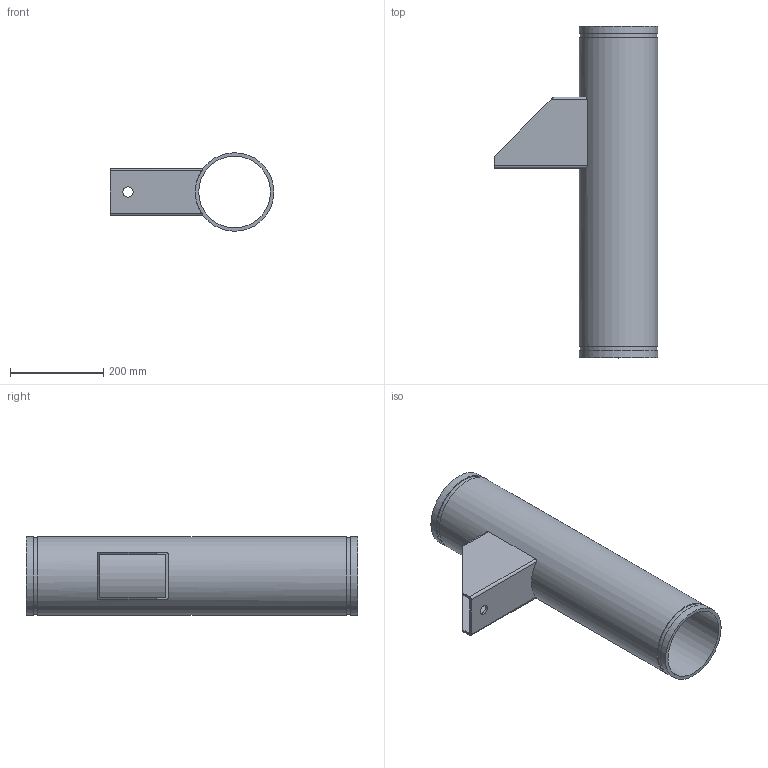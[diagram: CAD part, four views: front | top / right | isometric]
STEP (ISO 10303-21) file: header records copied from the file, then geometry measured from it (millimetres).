
FILE_DESCRIPTION(/* description */ ('VIC FLOOR MOUNTED RISER ANCHOR No A40'),/* implementation_level */ '2;1');
FILE_NAME(/* name */ 'C:\Files for Export\A40 & A40S-STEP-SWX\STEP\Victaulic_IPS_Riser Anchor_No A40 (OGS)\Victaulic_IPS_Riser Anchor_No A40 (OGS)_6 (150).stp',/* time_stamp */ '2024-06-07T07:36:29+02:00',/* author */ ('kkamble'),/* organization */ ('Victaulic'),/* preprocessor_version */ 'ST-DEVELOPER v18.1',/* originating_system */ 'Autodesk Inventor 2020',/* authorisation */ '');
FILE_SCHEMA (('AUTOMOTIVE_DESIGN { 1 0 10303 214 3 1 1 }'));
Length unit declared in the file: inch
Products named in the file (1): A40-06.0
Bounding box: 350.84 x 711.2 x 168.28 mm (x, y, z)
Volume: 2940149.5 mm3; surface area: 863640.5 mm2
Topology: 1 solids, 1 shells, 28 faces, 78 edges, 56 vertices
Faces by surface type: plane 16, cylinder 12
Full cylindrical faces by diameter (mm): 22.225 x1, 153.67 x1, 163.957 x2, 168.275 x3
Entity records: 1041 total; most frequent: CARTESIAN_POINT 199, DIRECTION 168, ORIENTED_EDGE 156, EDGE_CURVE 78, AXIS2_PLACEMENT_3D 65, VERTEX_POINT 56, LINE 38, VECTOR 38
